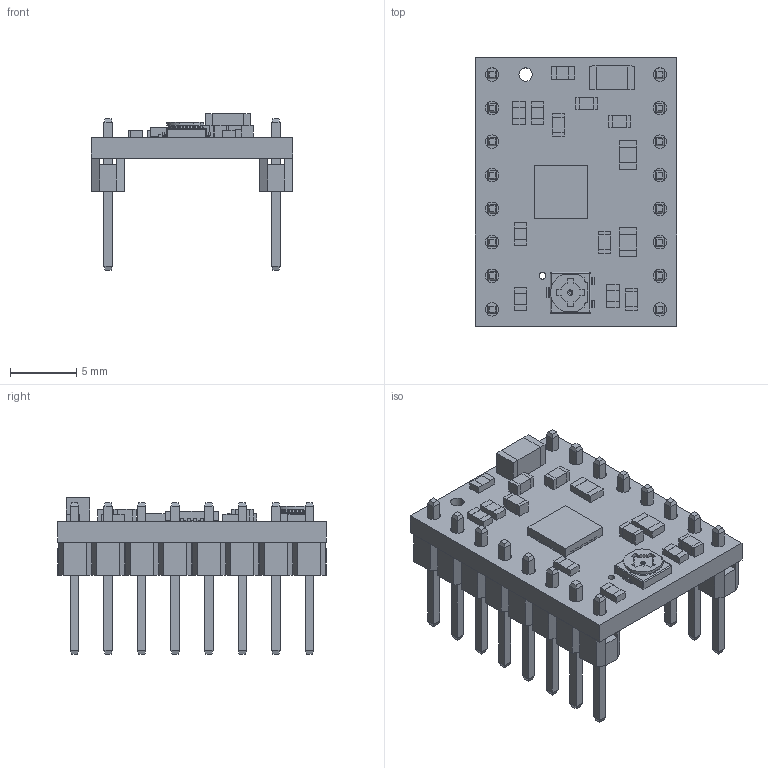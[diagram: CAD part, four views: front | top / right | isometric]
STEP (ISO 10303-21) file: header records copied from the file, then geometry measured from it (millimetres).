
FILE_DESCRIPTION (( 'STEP AP214' ), '1' );
FILE_NAME ('a5984_stepper_motor_driver_carrier_blue_edition_adjustable_current.step', '2024-08-21T20:24:18', ( '' ), ( '' ), 'SwSTEP 2.0', 'SolidWorks 2023', '' );
FILE_SCHEMA (( 'AUTOMOTIVE_DESIGN' ));
Length unit declared in the file: millimetre
Products named in the file (1): a5984_stepper_motor_driver_carrier_blue_edition_adjustable_current
Bounding box: 15.24 x 20.32 x 11.87 mm (x, y, z)
Volume: 784.3 mm3; surface area: 1790.2 mm2
Topology: 3 solids, 3 shells, 1342 faces, 3517 edges, 2248 vertices
Faces by surface type: plane 1062, bspline 173, cylinder 97, torus 6, sphere 4
Entity records: 61604 total; most frequent: CARTESIAN_POINT 14833, ORIENTED_EDGE 7026, DIRECTION 5677, EDGE_CURVE 3513, VECTOR 2925, LINE 2925, VERTEX_POINT 2248, EDGE_LOOP 1497
